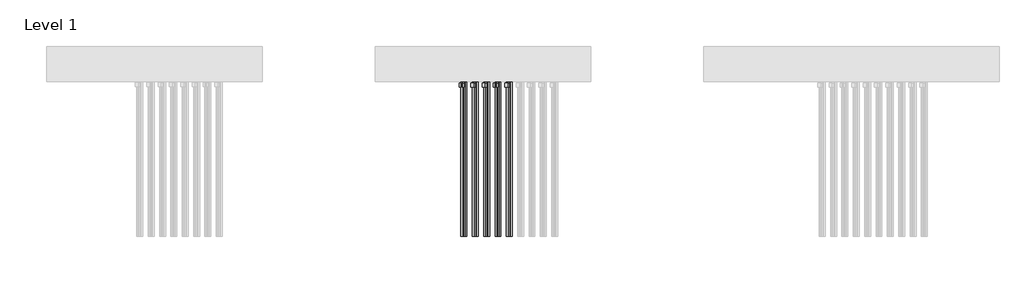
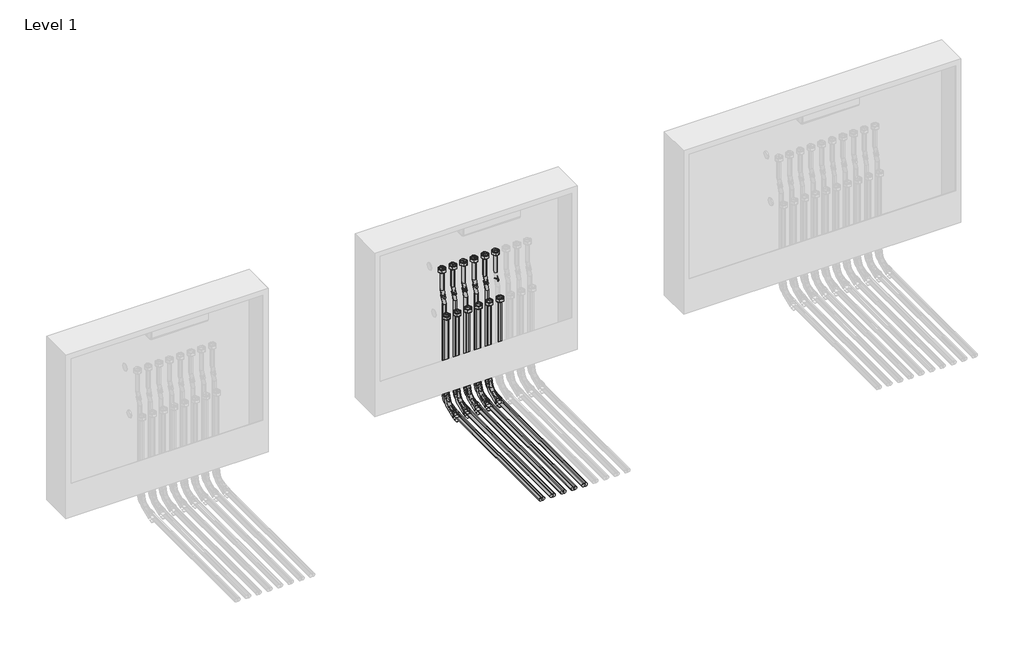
# One storey, part 8 of 15: 42 pipe fittings, 33 pipe segments.
"""IFC4 building model written with IfcOpenShell, lengths in millimetres."""

from ifc_helpers import new_model, si_unit, point, frame, frame_2d, origin, place, context, project, spatial, circle_curve, trimmed, segment, composite_curve, outline, extrude, transform, mapped, element, save
from components import pipe_fitting_b05a7e06, pipe_fitting_27357a6d, pipe_fitting_daada113, pipe_fitting_3e503640

model = new_model("IFC4")

# Units and contexts
model_context = context("Model", 3, world=origin())
ifc_project = project(units=[si_unit("LENGTHUNIT", "METRE", prefix="MILLI")], contexts=[model_context])

# Site, building, storey
site = spatial("IfcSite", under=ifc_project)
building = spatial("IfcBuilding", under=site)
storey = spatial("IfcBuildingStorey", under=building, Name="Level 1", Elevation=0.0)

# Pipe fittings
placement = place(None, origin())
pipe_fitting_shape = pipe_fitting_b05a7e06(model_context)
element("IfcPipeFitting", 1, ObjectType="USYSTEMS_УгловойФиксатор_Multi : Угловой фиксатор", at=placement, inside=storey, context=model_context, shape_type="MappedRepresentation", body=[
    mapped(pipe_fitting_shape, transform((11527.966047, 3819.5915681, -114.3211479), x_axis=(0.0, 0.0, -1.0), y_axis=(0.0, -1.0, 0.0), z_axis=(-1.0, 0.0, 0.0))),
])
element("IfcPipeFitting", 2, ObjectType="USYSTEMS_УгловойФиксатор_Multi : Угловой фиксатор", at=placement, inside=storey, context=model_context, shape_type="MappedRepresentation", body=[
    mapped(pipe_fitting_shape, transform((11577.966047, 3819.5915681, -114.3211479), x_axis=(0.0, 0.0, -1.0), y_axis=(0.0, -1.0, 0.0), z_axis=(-1.0, 0.0, 0.0))),
])
element("IfcPipeFitting", 3, ObjectType="USYSTEMS_УгловойФиксатор_Multi : Угловой фиксатор", at=placement, inside=storey, context=model_context, shape_type="MappedRepresentation", body=[
    mapped(pipe_fitting_shape, transform((11538.0518035, 3855.5915681, -114.3211479), x_axis=(0.0, 0.0, -1.0), y_axis=(0.0, -1.0, 0.0), z_axis=(-1.0, 0.0, 0.0))),
])
element("IfcPipeFitting", 4, ObjectType="USYSTEMS_УгловойФиксатор_Multi : Угловой фиксатор", at=placement, inside=storey, context=model_context, shape_type="MappedRepresentation", body=[
    mapped(pipe_fitting_shape, transform((11588.0518035, 3855.5915681, -114.3211479), x_axis=(0.0, 0.0, -1.0), y_axis=(0.0, -1.0, 0.0), z_axis=(-1.0, 0.0, 0.0))),
])
element("IfcPipeFitting", 5, ObjectType="USYSTEMS_УгловойФиксатор_Multi : Угловой фиксатор", at=placement, inside=storey, context=model_context, shape_type="MappedRepresentation", body=[
    mapped(pipe_fitting_shape, transform((11627.966047, 3819.5915681, -114.3211479), x_axis=(0.0, 0.0, -1.0), y_axis=(0.0, -1.0, 0.0), z_axis=(-1.0, 0.0, 0.0))),
])
element("IfcPipeFitting", 6, ObjectType="USYSTEMS_УгловойФиксатор_Multi : Угловой фиксатор", at=placement, inside=storey, context=model_context, shape_type="MappedRepresentation", body=[
    mapped(pipe_fitting_shape, transform((11638.0518035, 3855.5915681, -114.3211479), x_axis=(0.0, 0.0, -1.0), y_axis=(0.0, -1.0, 0.0), z_axis=(-1.0, 0.0, 0.0))),
])
element("IfcPipeFitting", 7, ObjectType="USYSTEMS_УгловойФиксатор_Multi : Угловой фиксатор", at=placement, inside=storey, context=model_context, shape_type="MappedRepresentation", body=[
    mapped(pipe_fitting_shape, transform((11677.966047, 3819.5915681, -114.3211479), x_axis=(0.0, 0.0, -1.0), y_axis=(0.0, -1.0, 0.0), z_axis=(-1.0, 0.0, 0.0))),
])
element("IfcPipeFitting", 8, ObjectType="USYSTEMS_УгловойФиксатор_Multi : Угловой фиксатор", at=placement, inside=storey, context=model_context, shape_type="MappedRepresentation", body=[
    mapped(pipe_fitting_shape, transform((11688.0518035, 3855.5915681, -114.3211479), x_axis=(0.0, 0.0, -1.0), y_axis=(0.0, -1.0, 0.0), z_axis=(-1.0, 0.0, 0.0))),
])
element("IfcPipeFitting", 9, ObjectType="USYSTEMS_УгловойФиксатор_Multi : Угловой фиксатор", at=placement, inside=storey, context=model_context, shape_type="MappedRepresentation", body=[
    mapped(pipe_fitting_shape, transform((11727.966047, 3819.5918902, -114.3211479), x_axis=(0.0, 0.0, -1.0), y_axis=(0.0, -1.0, 0.0), z_axis=(-1.0, 0.0, 0.0))),
])
element("IfcPipeFitting", 10, ObjectType="USYSTEMS_УгловойФиксатор_Multi : Угловой фиксатор", at=placement, inside=storey, context=model_context, shape_type="MappedRepresentation", body=[
    mapped(pipe_fitting_shape, transform((11738.0518035, 3855.5915681, -114.3211479), x_axis=(0.0, 0.0, -1.0), y_axis=(0.0, -1.0, 0.0), z_axis=(-1.0, 0.0, 0.0))),
])
pipe_fitting_2_shape = pipe_fitting_27357a6d(model_context)
element("IfcPipeFitting", 11, ObjectType="USYSTEMS_Штуцер с внутренней резьбой_FlexX_PEX : 16x2,0 x 3/4\" ВР Евроконус", at=placement, inside=storey, context=model_context, shape_type="MappedRepresentation", body=[
    mapped(pipe_fitting_2_shape, transform((11577.966047, 3855.5920282, 538.3084133), x_axis=(0.0, 0.0, 1.0), y_axis=(0.0, 1.0, 0.0), z_axis=(-1.0, 0.0, 0.0))),
])
element("IfcPipeFitting", 12, ObjectType="USYSTEMS_Штуцер с внутренней резьбой_FlexX_PEX : 16x2,0 x 3/4\" ВР Евроконус", at=placement, inside=storey, context=model_context, shape_type="MappedRepresentation", body=[
    mapped(pipe_fitting_2_shape, transform((11577.966047, 3819.5920282, 328.3084133), x_axis=(0.0, 0.0, 1.0), y_axis=(0.0, 1.0, 0.0), z_axis=(-1.0, 0.0, 0.0))),
])
element("IfcPipeFitting", 13, ObjectType="USYSTEMS_Штуцер с внутренней резьбой_FlexX_PEX : 16x2,0 x 3/4\" ВР Евроконус", at=placement, inside=storey, context=model_context, shape_type="MappedRepresentation", body=[
    mapped(pipe_fitting_2_shape, transform((11527.966047, 3819.5920282, 328.3084133), x_axis=(0.0, 0.0, 1.0), y_axis=(0.0, 1.0, 0.0), z_axis=(-1.0, 0.0, 0.0))),
])
element("IfcPipeFitting", 14, ObjectType="USYSTEMS_Штуцер с внутренней резьбой_FlexX_PEX : 16x2,0 x 3/4\" ВР Евроконус", at=placement, inside=storey, context=model_context, shape_type="MappedRepresentation", body=[
    mapped(pipe_fitting_2_shape, transform((11527.966047, 3855.5920282, 538.3084133), x_axis=(0.0, 0.0, 1.0), y_axis=(0.0, 1.0, 0.0), z_axis=(-1.0, 0.0, 0.0))),
])
element("IfcPipeFitting", 15, ObjectType="USYSTEMS_Штуцер с внутренней резьбой_FlexX_PEX : 16x2,0 x 3/4\" ВР Евроконус", at=placement, inside=storey, context=model_context, shape_type="MappedRepresentation", body=[
    mapped(pipe_fitting_2_shape, transform((11627.966047, 3819.5920282, 328.3084133), x_axis=(0.0, 0.0, 1.0), y_axis=(0.0, 1.0, 0.0), z_axis=(-1.0, 0.0, 0.0))),
])
element("IfcPipeFitting", 16, ObjectType="USYSTEMS_Штуцер с внутренней резьбой_FlexX_PEX : 16x2,0 x 3/4\" ВР Евроконус", at=placement, inside=storey, context=model_context, shape_type="MappedRepresentation", body=[
    mapped(pipe_fitting_2_shape, transform((11627.966047, 3855.5920282, 538.3084133), x_axis=(0.0, 0.0, 1.0), y_axis=(0.0, 1.0, 0.0), z_axis=(-1.0, 0.0, 0.0))),
])
element("IfcPipeFitting", 17, ObjectType="USYSTEMS_Штуцер с внутренней резьбой_FlexX_PEX : 16x2,0 x 3/4\" ВР Евроконус", at=placement, inside=storey, context=model_context, shape_type="MappedRepresentation", body=[
    mapped(pipe_fitting_2_shape, transform((11677.966047, 3819.5920282, 328.3084133), x_axis=(0.0, 0.0, 1.0), y_axis=(0.0, 1.0, 0.0), z_axis=(-1.0, 0.0, 0.0))),
])
element("IfcPipeFitting", 18, ObjectType="USYSTEMS_Штуцер с внутренней резьбой_FlexX_PEX : 16x2,0 x 3/4\" ВР Евроконус", at=placement, inside=storey, context=model_context, shape_type="MappedRepresentation", body=[
    mapped(pipe_fitting_2_shape, transform((11677.966047, 3855.5920282, 538.3084133), x_axis=(0.0, 0.0, 1.0), y_axis=(0.0, 1.0, 0.0), z_axis=(-1.0, 0.0, 0.0))),
])
element("IfcPipeFitting", 19, ObjectType="USYSTEMS_Штуцер с внутренней резьбой_FlexX_PEX : 16x2,0 x 3/4\" ВР Евроконус", at=placement, inside=storey, context=model_context, shape_type="MappedRepresentation", body=[
    mapped(pipe_fitting_2_shape, transform((11727.966047, 3819.5920282, 328.3084133), x_axis=(0.0, 0.0, 1.0), y_axis=(0.0, 1.0, 0.0), z_axis=(-1.0, 0.0, 0.0))),
])
element("IfcPipeFitting", 20, ObjectType="USYSTEMS_Штуцер с внутренней резьбой_FlexX_PEX : 16x2,0 x 3/4\" ВР Евроконус", at=placement, inside=storey, context=model_context, shape_type="MappedRepresentation", body=[
    mapped(pipe_fitting_2_shape, transform((11727.966047, 3855.5920282, 538.3084133), x_axis=(0.0, 0.0, 1.0), y_axis=(0.0, 1.0, 0.0), z_axis=(-1.0, 0.0, 0.0))),
])
element("IfcPipeFitting", 21, ObjectType="USYSTEMS_Штуцер с внутренней резьбой_FlexX_PEX : 16x2,0 x 3/4\" ВР Евроконус", at=placement, inside=storey, context=model_context, shape_type="MappedRepresentation", body=[
    mapped(pipe_fitting_2_shape, transform((11777.966047, 3819.5920282, 328.3084133), x_axis=(0.0, 0.0, 1.0), y_axis=(0.0, 1.0, 0.0), z_axis=(-1.0, 0.0, 0.0))),
])
element("IfcPipeFitting", 22, ObjectType="USYSTEMS_Штуцер с внутренней резьбой_FlexX_PEX : 16x2,0 x 3/4\" ВР Евроконус", at=placement, inside=storey, context=model_context, shape_type="MappedRepresentation", body=[
    mapped(pipe_fitting_2_shape, transform((11777.966047, 3855.5920282, 538.3084133), x_axis=(0.0, 0.0, 1.0), y_axis=(0.0, 1.0, 0.0), z_axis=(-1.0, 0.0, 0.0))),
])
pipe_fitting_3_shape = pipe_fitting_daada113(model_context)
element("IfcPipeFitting", 23, ObjectType="USYSTEMS_Гнутая труба_Radi Pipe : PN 6 в бухтах", at=placement, inside=storey, context=model_context, shape_type="MappedRepresentation", body=[
    mapped(pipe_fitting_3_shape, transform((11527.966047, 3855.5912535, 417.3513211), x_axis=(0.0, 0.0, -1.0), y_axis=(1.0, 0.0, 0.0), z_axis=(0.0, -1.0, 0.0))),
])
element("IfcPipeFitting", 24, ObjectType="USYSTEMS_Гнутая труба_Radi Pipe : PN 6 в бухтах", at=placement, inside=storey, context=model_context, shape_type="MappedRepresentation", body=[
    mapped(pipe_fitting_3_shape, transform((11538.0518035, 3855.5915681, 391.0770272), x_axis=(0.3583679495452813, 0.0, -0.9335804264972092), y_axis=(-0.9335804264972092, 0.0, -0.3583679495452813), z_axis=(0.0, 1.0, 0.0))),
])
element("IfcPipeFitting", 25, ObjectType="USYSTEMS_Гнутая труба_Radi Pipe : PN 6 в бухтах", at=placement, inside=storey, context=model_context, shape_type="MappedRepresentation", body=[
    mapped(pipe_fitting_3_shape, transform((11577.966047, 3855.5912536, 417.3247189), x_axis=(0.0, 0.0, -1.0), y_axis=(1.0, 0.0, 0.0), z_axis=(0.0, -1.0, 0.0))),
])
element("IfcPipeFitting", 26, ObjectType="USYSTEMS_Гнутая труба_Radi Pipe : PN 6 в бухтах", at=placement, inside=storey, context=model_context, shape_type="MappedRepresentation", body=[
    mapped(pipe_fitting_3_shape, transform((11588.0518035, 3855.5915681, 391.050425), x_axis=(0.3583679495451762, 0.0, -0.9335804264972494), y_axis=(-0.9335804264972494, 0.0, -0.3583679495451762), z_axis=(0.0, 1.0, 0.0))),
])
element("IfcPipeFitting", 27, ObjectType="USYSTEMS_Гнутая труба_Radi Pipe : PN 6 в бухтах", at=placement, inside=storey, context=model_context, shape_type="MappedRepresentation", body=[
    mapped(pipe_fitting_3_shape, transform((11627.966047, 3855.5912535, 417.3513211), x_axis=(0.0, 0.0, -1.0), y_axis=(1.0, 0.0, 0.0), z_axis=(0.0, -1.0, 0.0))),
])
element("IfcPipeFitting", 28, ObjectType="USYSTEMS_Гнутая труба_Radi Pipe : PN 6 в бухтах", at=placement, inside=storey, context=model_context, shape_type="MappedRepresentation", body=[
    mapped(pipe_fitting_3_shape, transform((11638.0518035, 3855.5915681, 391.0770272), x_axis=(0.3583679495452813, 0.0, -0.9335804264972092), y_axis=(-0.9335804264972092, 0.0, -0.3583679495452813), z_axis=(0.0, 1.0, 0.0))),
])
element("IfcPipeFitting", 29, ObjectType="USYSTEMS_Гнутая труба_Radi Pipe : PN 6 в бухтах", at=placement, inside=storey, context=model_context, shape_type="MappedRepresentation", body=[
    mapped(pipe_fitting_3_shape, transform((11677.966047, 3855.5912535, 417.3513211), x_axis=(0.0, 0.0, -1.0), y_axis=(1.0, 0.0, 0.0), z_axis=(0.0, -1.0, 0.0))),
])
element("IfcPipeFitting", 30, ObjectType="USYSTEMS_Гнутая труба_Radi Pipe : PN 6 в бухтах", at=placement, inside=storey, context=model_context, shape_type="MappedRepresentation", body=[
    mapped(pipe_fitting_3_shape, transform((11688.0518035, 3855.5915681, 391.0770272), x_axis=(0.3583679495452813, 0.0, -0.9335804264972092), y_axis=(-0.9335804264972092, 0.0, -0.3583679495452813), z_axis=(0.0, 1.0, 0.0))),
])
element("IfcPipeFitting", 31, ObjectType="USYSTEMS_Гнутая труба_Radi Pipe : PN 6 в бухтах", at=placement, inside=storey, context=model_context, shape_type="MappedRepresentation", body=[
    mapped(pipe_fitting_3_shape, transform((11727.966047, 3855.5912535, 417.3513211), x_axis=(0.0, 0.0, -1.0), y_axis=(1.0, 0.0, 0.0), z_axis=(0.0, -1.0, 0.0))),
])
element("IfcPipeFitting", 32, ObjectType="USYSTEMS_Гнутая труба_Radi Pipe : PN 6 в бухтах", at=placement, inside=storey, context=model_context, shape_type="MappedRepresentation", body=[
    mapped(pipe_fitting_3_shape, transform((11738.0518035, 3855.5915681, 391.0770272), x_axis=(0.3583679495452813, 0.0, -0.9335804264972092), y_axis=(-0.9335804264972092, 0.0, -0.3583679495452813), z_axis=(0.0, 1.0, 0.0))),
])
pipe_fitting_4_shape = pipe_fitting_3e503640(model_context)
element("IfcPipeFitting", 33, ObjectType="USYSTEMS_Гнутая труба_Radi Pipe : PN 6 в бухтах_С фиксатором", at=placement, inside=storey, context=model_context, shape_type="MappedRepresentation", body=[
    mapped(pipe_fitting_4_shape, transform((11527.966047, 3819.5915681, -114.3211479), x_axis=(0.0, 0.0, -1.0), y_axis=(0.0, -1.0, 0.0), z_axis=(-1.0, 0.0, 0.0))),
])
element("IfcPipeFitting", 34, ObjectType="USYSTEMS_Гнутая труба_Radi Pipe : PN 6 в бухтах_С фиксатором", at=placement, inside=storey, context=model_context, shape_type="MappedRepresentation", body=[
    mapped(pipe_fitting_4_shape, transform((11577.966047, 3819.5915681, -114.3211479), x_axis=(0.0, 0.0, -1.0), y_axis=(0.0, -1.0, 0.0), z_axis=(-1.0, 0.0, 0.0))),
])
element("IfcPipeFitting", 35, ObjectType="USYSTEMS_Гнутая труба_Radi Pipe : PN 6 в бухтах_С фиксатором", at=placement, inside=storey, context=model_context, shape_type="MappedRepresentation", body=[
    mapped(pipe_fitting_4_shape, transform((11538.0518035, 3855.5915681, -114.3211479), x_axis=(0.0, 0.0, -1.0), y_axis=(0.0, -1.0, 0.0), z_axis=(-1.0, 0.0, 0.0))),
])
element("IfcPipeFitting", 36, ObjectType="USYSTEMS_Гнутая труба_Radi Pipe : PN 6 в бухтах_С фиксатором", at=placement, inside=storey, context=model_context, shape_type="MappedRepresentation", body=[
    mapped(pipe_fitting_4_shape, transform((11588.0518035, 3855.5915681, -114.3211479), x_axis=(0.0, 0.0, -1.0), y_axis=(0.0, -1.0, 0.0), z_axis=(-1.0, 0.0, 0.0))),
])
element("IfcPipeFitting", 37, ObjectType="USYSTEMS_Гнутая труба_Radi Pipe : PN 6 в бухтах_С фиксатором", at=placement, inside=storey, context=model_context, shape_type="MappedRepresentation", body=[
    mapped(pipe_fitting_4_shape, transform((11627.966047, 3819.5915681, -114.3211479), x_axis=(0.0, 0.0, -1.0), y_axis=(0.0, -1.0, 0.0), z_axis=(-1.0, 0.0, 0.0))),
])
element("IfcPipeFitting", 38, ObjectType="USYSTEMS_Гнутая труба_Radi Pipe : PN 6 в бухтах_С фиксатором", at=placement, inside=storey, context=model_context, shape_type="MappedRepresentation", body=[
    mapped(pipe_fitting_4_shape, transform((11638.0518035, 3855.5915681, -114.3211479), x_axis=(0.0, 0.0, -1.0), y_axis=(0.0, -1.0, 0.0), z_axis=(-1.0, 0.0, 0.0))),
])
element("IfcPipeFitting", 39, ObjectType="USYSTEMS_Гнутая труба_Radi Pipe : PN 6 в бухтах_С фиксатором", at=placement, inside=storey, context=model_context, shape_type="MappedRepresentation", body=[
    mapped(pipe_fitting_4_shape, transform((11677.966047, 3819.5915681, -114.3211479), x_axis=(0.0, 0.0, -1.0), y_axis=(0.0, -1.0, 0.0), z_axis=(-1.0, 0.0, 0.0))),
])
element("IfcPipeFitting", 40, ObjectType="USYSTEMS_Гнутая труба_Radi Pipe : PN 6 в бухтах_С фиксатором", at=placement, inside=storey, context=model_context, shape_type="MappedRepresentation", body=[
    mapped(pipe_fitting_4_shape, transform((11688.0518035, 3855.5915681, -114.3211479), x_axis=(0.0, 0.0, -1.0), y_axis=(0.0, -1.0, 0.0), z_axis=(-1.0, 0.0, 0.0))),
])
element("IfcPipeFitting", 41, ObjectType="USYSTEMS_Гнутая труба_Radi Pipe : PN 6 в бухтах_С фиксатором", at=placement, inside=storey, context=model_context, shape_type="MappedRepresentation", body=[
    mapped(pipe_fitting_4_shape, transform((11727.966047, 3819.5918902, -114.3211479), x_axis=(0.0, 0.0, -1.0), y_axis=(0.0, -1.0, 0.0), z_axis=(-1.0, 0.0, 0.0))),
])
element("IfcPipeFitting", 42, ObjectType="USYSTEMS_Гнутая труба_Radi Pipe : PN 6 в бухтах_С фиксатором", at=placement, inside=storey, context=model_context, shape_type="MappedRepresentation", body=[
    mapped(pipe_fitting_4_shape, transform((11738.0518035, 3855.5915681, -114.3211479), x_axis=(0.0, 0.0, -1.0), y_axis=(0.0, -1.0, 0.0), z_axis=(-1.0, 0.0, 0.0))),
])

# Pipe segments
element("IfcPipeSegment", 43, ObjectType="USYSTEMS труба Radi Pipe белая PN6", at=placement, inside=storey, context=model_context, shape_type="SweptSolid", body=[
    extrude(outline(composite_curve([segment(trimmed(circle_curve(frame_2d((0.0, -8.0)), 8.0), [point((-8.0, -8.0))], [point((0.0, 0.0))], False, "CARTESIAN"), True, "CONTINUOUS"), segment(trimmed(circle_curve(frame_2d((0.0, -8.0)), 8.0), [point((0.0, 0.0))], [point((8.0, -8.0))], False, "CARTESIAN"), True, "CONTINUOUS"), segment(trimmed(circle_curve(frame_2d((0.0, -8.0)), 8.0), [point((8.0, -8.0))], [point((0.0, -16.0))], False, "CARTESIAN"), True, "CONTINUOUS"), segment(trimmed(circle_curve(frame_2d((0.0, -8.0)), 8.0), [point((0.0, -16.0))], [point((-8.0, -8.0))], False, "CARTESIAN"), True, "CONTINUOUS")], self_intersect=False)), frame((11527.966047, 3811.5915681, -43.321138), z_axis=(0.0, 1.2415007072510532e-06, 0.9999999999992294), x_axis=(-1.0, 0.0, 0.0)), (0.0, 0.0, 1.0), 370.6295612),
])
element("IfcPipeSegment", 44, ObjectType="USYSTEMS труба Radi Pipe белая PN6", at=placement, inside=storey, context=model_context, shape_type="SweptSolid", body=[
    extrude(outline(composite_curve([segment(trimmed(circle_curve(frame_2d((0.0, -8.0)), 8.0), [point((-8.0, -8.0))], [point((0.0, 0.0))], False, "CARTESIAN"), True, "CONTINUOUS"), segment(trimmed(circle_curve(frame_2d((0.0, -8.0)), 8.0), [point((0.0, 0.0))], [point((8.0, -8.0))], False, "CARTESIAN"), True, "CONTINUOUS"), segment(trimmed(circle_curve(frame_2d((0.0, -8.0)), 8.0), [point((8.0, -8.0))], [point((0.0, -16.0))], False, "CARTESIAN"), True, "CONTINUOUS"), segment(trimmed(circle_curve(frame_2d((0.0, -8.0)), 8.0), [point((0.0, -16.0))], [point((-8.0, -8.0))], False, "CARTESIAN"), True, "CONTINUOUS")], self_intersect=False)), frame((11577.966047, 3811.5915681, -43.321138), z_axis=(0.0, 1.2415007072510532e-06, 0.9999999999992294), x_axis=(-1.0, 0.0, 0.0)), (0.0, 0.0, 1.0), 370.6295612),
])
element("IfcPipeSegment", 45, ObjectType="USYSTEMS труба Radi Pipe белая PN6", at=placement, inside=storey, context=model_context, shape_type="SweptSolid", body=[
    extrude(outline(composite_curve([segment(trimmed(circle_curve(frame_2d((0.0, -8.0)), 8.0), [point((-8.0, -8.0))], [point((0.0, 0.0))], False, "CARTESIAN"), True, "CONTINUOUS"), segment(trimmed(circle_curve(frame_2d((0.0, -8.0)), 8.0), [point((0.0, 0.0))], [point((8.0, -8.0))], False, "CARTESIAN"), True, "CONTINUOUS"), segment(trimmed(circle_curve(frame_2d((0.0, -8.0)), 8.0), [point((8.0, -8.0))], [point((0.0, -16.0))], False, "CARTESIAN"), True, "CONTINUOUS"), segment(trimmed(circle_curve(frame_2d((0.0, -8.0)), 8.0), [point((0.0, -16.0))], [point((-8.0, -8.0))], False, "CARTESIAN"), True, "CONTINUOUS")], self_intersect=False)), frame((11577.966047, 3847.5912536, 441.048181), z_axis=(0.0, 8.046607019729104e-06, 0.9999999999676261), x_axis=(-1.0, 0.0, 0.0)), (0.0, 0.0, 1.0), 96.2602967),
])
element("IfcPipeSegment", 46, ObjectType="USYSTEMS труба Radi Pipe белая PN6", at=placement, inside=storey, context=model_context, shape_type="SweptSolid", body=[
    extrude(outline(composite_curve([segment(trimmed(circle_curve(frame_2d((0.0, -8.0)), 8.0), [point((-8.0, -8.0))], [point((0.0, 0.0))], False, "CARTESIAN"), True, "CONTINUOUS"), segment(trimmed(circle_curve(frame_2d((0.0, -8.0)), 8.0), [point((0.0, 0.0))], [point((8.0, -8.0))], False, "CARTESIAN"), True, "CONTINUOUS"), segment(trimmed(circle_curve(frame_2d((0.0, -8.0)), 8.0), [point((8.0, -8.0))], [point((0.0, -16.0))], False, "CARTESIAN"), True, "CONTINUOUS"), segment(trimmed(circle_curve(frame_2d((0.0, -8.0)), 8.0), [point((0.0, -16.0))], [point((-8.0, -8.0))], False, "CARTESIAN"), True, "CONTINUOUS")], self_intersect=False)), frame((11527.966047, 3847.5912535, 441.0747833), z_axis=(0.0, 8.050352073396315e-06, 0.9999999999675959), x_axis=(-1.0, 0.0, 0.0)), (0.0, 0.0, 1.0), 96.2336944),
])
element("IfcPipeSegment", 47, ObjectType="USYSTEMS труба Radi Pipe белая PN6", at=placement, inside=storey, context=model_context, shape_type="SweptSolid", body=[
    extrude(outline(composite_curve([segment(trimmed(circle_curve(frame_2d((0.0, 8.0)), 8.0), [point((0.0003897, 16.0))], [point((8.0, 7.9996104))], False, "CARTESIAN"), True, "CONTINUOUS"), segment(trimmed(circle_curve(frame_2d((0.0, 8.0)), 8.0), [point((8.0, 7.9996104))], [point((-0.0003897, 0.0))], False, "CARTESIAN"), True, "CONTINUOUS"), segment(trimmed(circle_curve(frame_2d((0.0, 8.0)), 8.0), [point((-0.0003897, 0.0))], [point((-8.0, 8.0003896))], False, "CARTESIAN"), True, "CONTINUOUS"), segment(trimmed(circle_curve(frame_2d((0.0, 8.0)), 8.0), [point((-8.0, 8.0003896))], [point((0.0003897, 16.0))], False, "CARTESIAN"), True, "CONTINUOUS")], self_intersect=False)), frame((11536.4677524, 3847.5912535, 395.203761), z_axis=(-0.3583679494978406, 1.6296675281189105e-05, 0.9335804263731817), x_axis=(0.9335804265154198, 6.2557075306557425e-06, 0.35836794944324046)), (0.0, 0.0, 1.0), 19.3032171),
])
element("IfcPipeSegment", 48, ObjectType="USYSTEMS труба Radi Pipe белая PN6", at=placement, inside=storey, context=model_context, shape_type="SweptSolid", body=[
    extrude(outline(composite_curve([segment(trimmed(circle_curve(frame_2d((11538.0518035, 3855.5915681)), 8.0), [point((11546.0518035, 3855.5915681))], [point((11538.0518035, 3847.5915681))], False, "CARTESIAN"), True, "CONTINUOUS"), segment(trimmed(circle_curve(frame_2d((11538.0518035, 3855.5915681)), 8.0), [point((11538.0518035, 3847.5915681))], [point((11530.0518035, 3855.5915681))], False, "CARTESIAN"), True, "CONTINUOUS"), segment(trimmed(circle_curve(frame_2d((11538.0518035, 3855.5915681)), 8.0), [point((11530.0518035, 3855.5915681))], [point((11538.0518035, 3863.5915681))], False, "CARTESIAN"), True, "CONTINUOUS"), segment(trimmed(circle_curve(frame_2d((11538.0518035, 3855.5915681)), 8.0), [point((11538.0518035, 3863.5915681))], [point((11546.0518035, 3855.5915681))], False, "CARTESIAN"), True, "CONTINUOUS")], self_intersect=False)), frame((0.0, 0.0, -43.3211479), z_axis=(0.0, 0.0, 1.0), x_axis=(1.0, 0.0, 0.0)), (0.0, 0.0, 1.0), 410.6747774),
])
element("IfcPipeSegment", 49, ObjectType="USYSTEMS труба Radi Pipe белая PN6", at=placement, inside=storey, context=model_context, shape_type="SweptSolid", body=[
    extrude(outline(composite_curve([segment(trimmed(circle_curve(frame_2d((0.0, 8.0)), 8.0), [point((0.0003895, 16.0))], [point((8.0, 7.9996106))], False, "CARTESIAN"), True, "CONTINUOUS"), segment(trimmed(circle_curve(frame_2d((0.0, 8.0)), 8.0), [point((8.0, 7.9996106))], [point((-0.0003895, 0.0))], False, "CARTESIAN"), True, "CONTINUOUS"), segment(trimmed(circle_curve(frame_2d((0.0, 8.0)), 8.0), [point((-0.0003895, 0.0))], [point((-8.0, 8.0003895))], False, "CARTESIAN"), True, "CONTINUOUS"), segment(trimmed(circle_curve(frame_2d((0.0, 8.0)), 8.0), [point((-8.0, 8.0003895))], [point((0.0003895, 16.0))], False, "CARTESIAN"), True, "CONTINUOUS")], self_intersect=False)), frame((11586.4677524, 3847.5912536, 395.1771587), z_axis=(-0.358367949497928, 1.6289094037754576e-05, 0.9335804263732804), x_axis=(0.9335804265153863, 6.25279736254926e-06, 0.3583679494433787)), (0.0, 0.0, 1.0), 19.3032171),
])
element("IfcPipeSegment", 50, ObjectType="USYSTEMS труба Radi Pipe белая PN6", at=placement, inside=storey, context=model_context, shape_type="SweptSolid", body=[
    extrude(outline(composite_curve([segment(trimmed(circle_curve(frame_2d((11588.0518035, 3855.5915681)), 8.0), [point((11596.0518035, 3855.5915681))], [point((11588.0518035, 3847.5915681))], False, "CARTESIAN"), True, "CONTINUOUS"), segment(trimmed(circle_curve(frame_2d((11588.0518035, 3855.5915681)), 8.0), [point((11588.0518035, 3847.5915681))], [point((11580.0518035, 3855.5915681))], False, "CARTESIAN"), True, "CONTINUOUS"), segment(trimmed(circle_curve(frame_2d((11588.0518035, 3855.5915681)), 8.0), [point((11580.0518035, 3855.5915681))], [point((11588.0518035, 3863.5915681))], False, "CARTESIAN"), True, "CONTINUOUS"), segment(trimmed(circle_curve(frame_2d((11588.0518035, 3855.5915681)), 8.0), [point((11588.0518035, 3863.5915681))], [point((11596.0518035, 3855.5915681))], False, "CARTESIAN"), True, "CONTINUOUS")], self_intersect=False)), frame((0.0, 0.0, -43.3211479), z_axis=(0.0, 0.0, 1.0), x_axis=(1.0, 0.0, 0.0)), (0.0, 0.0, 1.0), 410.6481751),
])
element("IfcPipeSegment", 51, ObjectType="USYSTEMS труба Radi Pipe белая PN6", at=placement, inside=storey, context=model_context, shape_type="SweptSolid", body=[
    extrude(outline(composite_curve([segment(trimmed(circle_curve(frame_2d((-114.3211479, 11527.966047)), 8.0), [point((-114.3211479, 11519.966047))], [point((-122.3211479, 11527.966047))], False, "CARTESIAN"), True, "CONTINUOUS"), segment(trimmed(circle_curve(frame_2d((-114.3211479, 11527.966047)), 8.0), [point((-122.3211479, 11527.966047))], [point((-114.3211479, 11535.966047))], False, "CARTESIAN"), True, "CONTINUOUS"), segment(trimmed(circle_curve(frame_2d((-114.3211479, 11527.966047)), 8.0), [point((-114.3211479, 11535.966047))], [point((-106.3211479, 11527.966047))], False, "CARTESIAN"), True, "CONTINUOUS"), segment(trimmed(circle_curve(frame_2d((-114.3211479, 11527.966047)), 8.0), [point((-106.3211479, 11527.966047))], [point((-114.3211479, 11519.966047))], False, "CARTESIAN"), True, "CONTINUOUS")], self_intersect=False)), frame((0.0, 3054.7207207, 0.0), z_axis=(0.0, 1.0, 0.0), x_axis=(0.0, 0.0, 1.0)), (0.0, 0.0, 1.0), 693.8708473),
])
element("IfcPipeSegment", 52, ObjectType="USYSTEMS труба Radi Pipe белая PN6", at=placement, inside=storey, context=model_context, shape_type="SweptSolid", body=[
    extrude(outline(composite_curve([segment(trimmed(circle_curve(frame_2d((-114.3211479, 11577.966047)), 8.0), [point((-114.3211479, 11569.966047))], [point((-122.3211479, 11577.966047))], False, "CARTESIAN"), True, "CONTINUOUS"), segment(trimmed(circle_curve(frame_2d((-114.3211479, 11577.966047)), 8.0), [point((-122.3211479, 11577.966047))], [point((-114.3211479, 11585.966047))], False, "CARTESIAN"), True, "CONTINUOUS"), segment(trimmed(circle_curve(frame_2d((-114.3211479, 11577.966047)), 8.0), [point((-114.3211479, 11585.966047))], [point((-106.3211479, 11577.966047))], False, "CARTESIAN"), True, "CONTINUOUS"), segment(trimmed(circle_curve(frame_2d((-114.3211479, 11577.966047)), 8.0), [point((-106.3211479, 11577.966047))], [point((-114.3211479, 11569.966047))], False, "CARTESIAN"), True, "CONTINUOUS")], self_intersect=False)), frame((0.0, 3054.7207207, 0.0), z_axis=(0.0, 1.0, 0.0), x_axis=(0.0, 0.0, 1.0)), (0.0, 0.0, 1.0), 693.8708473),
])
element("IfcPipeSegment", 53, ObjectType="USYSTEMS труба Radi Pipe белая PN6", at=placement, inside=storey, context=model_context, shape_type="SweptSolid", body=[
    extrude(outline(composite_curve([segment(trimmed(circle_curve(frame_2d((-114.3211479, 11538.0518035)), 8.0), [point((-114.3211479, 11530.0518035))], [point((-122.3211479, 11538.0518035))], False, "CARTESIAN"), True, "CONTINUOUS"), segment(trimmed(circle_curve(frame_2d((-114.3211479, 11538.0518035)), 8.0), [point((-122.3211479, 11538.0518035))], [point((-114.3211479, 11546.0518035))], False, "CARTESIAN"), True, "CONTINUOUS"), segment(trimmed(circle_curve(frame_2d((-114.3211479, 11538.0518035)), 8.0), [point((-114.3211479, 11546.0518035))], [point((-106.3211479, 11538.0518035))], False, "CARTESIAN"), True, "CONTINUOUS"), segment(trimmed(circle_curve(frame_2d((-114.3211479, 11538.0518035)), 8.0), [point((-106.3211479, 11538.0518035))], [point((-114.3211479, 11530.0518035))], False, "CARTESIAN"), True, "CONTINUOUS")], self_intersect=False)), frame((0.0, 3054.7207207, 0.0), z_axis=(0.0, 1.0, 0.0), x_axis=(0.0, 0.0, 1.0)), (0.0, 0.0, 1.0), 729.8708473),
])
element("IfcPipeSegment", 54, ObjectType="USYSTEMS труба Radi Pipe белая PN6", at=placement, inside=storey, context=model_context, shape_type="SweptSolid", body=[
    extrude(outline(composite_curve([segment(trimmed(circle_curve(frame_2d((-114.3211479, 11588.0518035)), 8.0), [point((-114.3211479, 11580.0518035))], [point((-122.3211479, 11588.0518035))], False, "CARTESIAN"), True, "CONTINUOUS"), segment(trimmed(circle_curve(frame_2d((-114.3211479, 11588.0518035)), 8.0), [point((-122.3211479, 11588.0518035))], [point((-114.3211479, 11596.0518035))], False, "CARTESIAN"), True, "CONTINUOUS"), segment(trimmed(circle_curve(frame_2d((-114.3211479, 11588.0518035)), 8.0), [point((-114.3211479, 11596.0518035))], [point((-106.3211479, 11588.0518035))], False, "CARTESIAN"), True, "CONTINUOUS"), segment(trimmed(circle_curve(frame_2d((-114.3211479, 11588.0518035)), 8.0), [point((-106.3211479, 11588.0518035))], [point((-114.3211479, 11580.0518035))], False, "CARTESIAN"), True, "CONTINUOUS")], self_intersect=False)), frame((0.0, 3054.7207207, 0.0), z_axis=(0.0, 1.0, 0.0), x_axis=(0.0, 0.0, 1.0)), (0.0, 0.0, 1.0), 729.8708473),
])
element("IfcPipeSegment", 55, ObjectType="USYSTEMS труба Radi Pipe белая PN6", at=placement, inside=storey, context=model_context, shape_type="SweptSolid", body=[
    extrude(outline(composite_curve([segment(trimmed(circle_curve(frame_2d((0.0, -8.0)), 8.0), [point((-8.0, -8.0))], [point((0.0, 0.0))], False, "CARTESIAN"), True, "CONTINUOUS"), segment(trimmed(circle_curve(frame_2d((0.0, -8.0)), 8.0), [point((0.0, 0.0))], [point((8.0, -8.0))], False, "CARTESIAN"), True, "CONTINUOUS"), segment(trimmed(circle_curve(frame_2d((0.0, -8.0)), 8.0), [point((8.0, -8.0))], [point((0.0, -16.0))], False, "CARTESIAN"), True, "CONTINUOUS"), segment(trimmed(circle_curve(frame_2d((0.0, -8.0)), 8.0), [point((0.0, -16.0))], [point((-8.0, -8.0))], False, "CARTESIAN"), True, "CONTINUOUS")], self_intersect=False)), frame((11627.966047, 3811.5915681, -43.321138), z_axis=(0.0, 1.2415007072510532e-06, 0.9999999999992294), x_axis=(-1.0, 0.0, 0.0)), (0.0, 0.0, 1.0), 370.6295612),
])
element("IfcPipeSegment", 56, ObjectType="USYSTEMS труба Radi Pipe белая PN6", at=placement, inside=storey, context=model_context, shape_type="SweptSolid", body=[
    extrude(outline(composite_curve([segment(trimmed(circle_curve(frame_2d((0.0, -8.0)), 8.0), [point((-8.0, -8.0))], [point((0.0, 0.0))], False, "CARTESIAN"), True, "CONTINUOUS"), segment(trimmed(circle_curve(frame_2d((0.0, -8.0)), 8.0), [point((0.0, 0.0))], [point((8.0, -8.0))], False, "CARTESIAN"), True, "CONTINUOUS"), segment(trimmed(circle_curve(frame_2d((0.0, -8.0)), 8.0), [point((8.0, -8.0))], [point((0.0, -16.0))], False, "CARTESIAN"), True, "CONTINUOUS"), segment(trimmed(circle_curve(frame_2d((0.0, -8.0)), 8.0), [point((0.0, -16.0))], [point((-8.0, -8.0))], False, "CARTESIAN"), True, "CONTINUOUS")], self_intersect=False)), frame((11627.966047, 3847.5912535, 441.0747833), z_axis=(0.0, 8.050352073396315e-06, 0.9999999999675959), x_axis=(-1.0, 0.0, 0.0)), (0.0, 0.0, 1.0), 96.2336944),
])
element("IfcPipeSegment", 57, ObjectType="USYSTEMS труба Radi Pipe белая PN6", at=placement, inside=storey, context=model_context, shape_type="SweptSolid", body=[
    extrude(outline(composite_curve([segment(trimmed(circle_curve(frame_2d((0.0, 8.0)), 8.0), [point((0.0003897, 16.0))], [point((8.0, 7.9996104))], False, "CARTESIAN"), True, "CONTINUOUS"), segment(trimmed(circle_curve(frame_2d((0.0, 8.0)), 8.0), [point((8.0, 7.9996104))], [point((-0.0003897, 0.0))], False, "CARTESIAN"), True, "CONTINUOUS"), segment(trimmed(circle_curve(frame_2d((0.0, 8.0)), 8.0), [point((-0.0003897, 0.0))], [point((-8.0, 8.0003896))], False, "CARTESIAN"), True, "CONTINUOUS"), segment(trimmed(circle_curve(frame_2d((0.0, 8.0)), 8.0), [point((-8.0, 8.0003896))], [point((0.0003897, 16.0))], False, "CARTESIAN"), True, "CONTINUOUS")], self_intersect=False)), frame((11636.4677524, 3847.5912535, 395.203761), z_axis=(-0.35836794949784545, 1.6296675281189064e-05, 0.9335804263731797), x_axis=(0.9335804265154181, 6.2557075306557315e-06, 0.35836794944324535)), (0.0, 0.0, 1.0), 19.3032171),
])
element("IfcPipeSegment", 58, ObjectType="USYSTEMS труба Radi Pipe белая PN6", at=placement, inside=storey, context=model_context, shape_type="SweptSolid", body=[
    extrude(outline(composite_curve([segment(trimmed(circle_curve(frame_2d((11638.0518035, 3855.5915681)), 8.0), [point((11646.0518035, 3855.5915681))], [point((11638.0518035, 3847.5915681))], False, "CARTESIAN"), True, "CONTINUOUS"), segment(trimmed(circle_curve(frame_2d((11638.0518035, 3855.5915681)), 8.0), [point((11638.0518035, 3847.5915681))], [point((11630.0518035, 3855.5915681))], False, "CARTESIAN"), True, "CONTINUOUS"), segment(trimmed(circle_curve(frame_2d((11638.0518035, 3855.5915681)), 8.0), [point((11630.0518035, 3855.5915681))], [point((11638.0518035, 3863.5915681))], False, "CARTESIAN"), True, "CONTINUOUS"), segment(trimmed(circle_curve(frame_2d((11638.0518035, 3855.5915681)), 8.0), [point((11638.0518035, 3863.5915681))], [point((11646.0518035, 3855.5915681))], False, "CARTESIAN"), True, "CONTINUOUS")], self_intersect=False)), frame((0.0, 0.0, -43.3211479), z_axis=(0.0, 0.0, 1.0), x_axis=(1.0, 0.0, 0.0)), (0.0, 0.0, 1.0), 410.6747774),
])
element("IfcPipeSegment", 59, ObjectType="USYSTEMS труба Radi Pipe белая PN6", at=placement, inside=storey, context=model_context, shape_type="SweptSolid", body=[
    extrude(outline(composite_curve([segment(trimmed(circle_curve(frame_2d((-114.3211479, 11627.966047)), 8.0), [point((-114.3211479, 11619.966047))], [point((-122.3211479, 11627.966047))], False, "CARTESIAN"), True, "CONTINUOUS"), segment(trimmed(circle_curve(frame_2d((-114.3211479, 11627.966047)), 8.0), [point((-122.3211479, 11627.966047))], [point((-114.3211479, 11635.966047))], False, "CARTESIAN"), True, "CONTINUOUS"), segment(trimmed(circle_curve(frame_2d((-114.3211479, 11627.966047)), 8.0), [point((-114.3211479, 11635.966047))], [point((-106.3211479, 11627.966047))], False, "CARTESIAN"), True, "CONTINUOUS"), segment(trimmed(circle_curve(frame_2d((-114.3211479, 11627.966047)), 8.0), [point((-106.3211479, 11627.966047))], [point((-114.3211479, 11619.966047))], False, "CARTESIAN"), True, "CONTINUOUS")], self_intersect=False)), frame((0.0, 3054.7207207, 0.0), z_axis=(0.0, 1.0, 0.0), x_axis=(0.0, 0.0, 1.0)), (0.0, 0.0, 1.0), 693.8708473),
])
element("IfcPipeSegment", 60, ObjectType="USYSTEMS труба Radi Pipe белая PN6", at=placement, inside=storey, context=model_context, shape_type="SweptSolid", body=[
    extrude(outline(composite_curve([segment(trimmed(circle_curve(frame_2d((-114.3211479, 11638.0518035)), 8.0), [point((-114.3211479, 11630.0518035))], [point((-122.3211479, 11638.0518035))], False, "CARTESIAN"), True, "CONTINUOUS"), segment(trimmed(circle_curve(frame_2d((-114.3211479, 11638.0518035)), 8.0), [point((-122.3211479, 11638.0518035))], [point((-114.3211479, 11646.0518035))], False, "CARTESIAN"), True, "CONTINUOUS"), segment(trimmed(circle_curve(frame_2d((-114.3211479, 11638.0518035)), 8.0), [point((-114.3211479, 11646.0518035))], [point((-106.3211479, 11638.0518035))], False, "CARTESIAN"), True, "CONTINUOUS"), segment(trimmed(circle_curve(frame_2d((-114.3211479, 11638.0518035)), 8.0), [point((-106.3211479, 11638.0518035))], [point((-114.3211479, 11630.0518035))], False, "CARTESIAN"), True, "CONTINUOUS")], self_intersect=False)), frame((0.0, 3054.7207207, 0.0), z_axis=(0.0, 1.0, 0.0), x_axis=(0.0, 0.0, 1.0)), (0.0, 0.0, 1.0), 729.8708473),
])
element("IfcPipeSegment", 61, ObjectType="USYSTEMS труба Radi Pipe белая PN6", at=placement, inside=storey, context=model_context, shape_type="SweptSolid", body=[
    extrude(outline(composite_curve([segment(trimmed(circle_curve(frame_2d((0.0, -8.0)), 8.0), [point((-8.0, -8.0))], [point((0.0, 0.0))], False, "CARTESIAN"), True, "CONTINUOUS"), segment(trimmed(circle_curve(frame_2d((0.0, -8.0)), 8.0), [point((0.0, 0.0))], [point((8.0, -8.0))], False, "CARTESIAN"), True, "CONTINUOUS"), segment(trimmed(circle_curve(frame_2d((0.0, -8.0)), 8.0), [point((8.0, -8.0))], [point((0.0, -16.0))], False, "CARTESIAN"), True, "CONTINUOUS"), segment(trimmed(circle_curve(frame_2d((0.0, -8.0)), 8.0), [point((0.0, -16.0))], [point((-8.0, -8.0))], False, "CARTESIAN"), True, "CONTINUOUS")], self_intersect=False)), frame((11677.966047, 3811.5915681, -43.321138), z_axis=(0.0, 1.2415007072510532e-06, 0.9999999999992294), x_axis=(-1.0, 0.0, 0.0)), (0.0, 0.0, 1.0), 370.6295612),
])
element("IfcPipeSegment", 62, ObjectType="USYSTEMS труба Radi Pipe белая PN6", at=placement, inside=storey, context=model_context, shape_type="SweptSolid", body=[
    extrude(outline(composite_curve([segment(trimmed(circle_curve(frame_2d((0.0, -8.0)), 8.0), [point((-8.0, -8.0))], [point((0.0, 0.0))], False, "CARTESIAN"), True, "CONTINUOUS"), segment(trimmed(circle_curve(frame_2d((0.0, -8.0)), 8.0), [point((0.0, 0.0))], [point((8.0, -8.0))], False, "CARTESIAN"), True, "CONTINUOUS"), segment(trimmed(circle_curve(frame_2d((0.0, -8.0)), 8.0), [point((8.0, -8.0))], [point((0.0, -16.0))], False, "CARTESIAN"), True, "CONTINUOUS"), segment(trimmed(circle_curve(frame_2d((0.0, -8.0)), 8.0), [point((0.0, -16.0))], [point((-8.0, -8.0))], False, "CARTESIAN"), True, "CONTINUOUS")], self_intersect=False)), frame((11677.966047, 3847.5912535, 441.0747833), z_axis=(0.0, 8.050352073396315e-06, 0.9999999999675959), x_axis=(-1.0, 0.0, 0.0)), (0.0, 0.0, 1.0), 96.2336944),
])
element("IfcPipeSegment", 63, ObjectType="USYSTEMS труба Radi Pipe белая PN6", at=placement, inside=storey, context=model_context, shape_type="SweptSolid", body=[
    extrude(outline(composite_curve([segment(trimmed(circle_curve(frame_2d((0.0, 8.0)), 8.0), [point((0.0003897, 16.0))], [point((8.0, 7.9996104))], False, "CARTESIAN"), True, "CONTINUOUS"), segment(trimmed(circle_curve(frame_2d((0.0, 8.0)), 8.0), [point((8.0, 7.9996104))], [point((-0.0003897, 0.0))], False, "CARTESIAN"), True, "CONTINUOUS"), segment(trimmed(circle_curve(frame_2d((0.0, 8.0)), 8.0), [point((-0.0003897, 0.0))], [point((-8.0, 8.0003896))], False, "CARTESIAN"), True, "CONTINUOUS"), segment(trimmed(circle_curve(frame_2d((0.0, 8.0)), 8.0), [point((-8.0, 8.0003896))], [point((0.0003897, 16.0))], False, "CARTESIAN"), True, "CONTINUOUS")], self_intersect=False)), frame((11686.4677524, 3847.5912535, 395.203761), z_axis=(-0.3583679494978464, 1.6296675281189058e-05, 0.9335804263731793), x_axis=(0.9335804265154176, 6.255707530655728e-06, 0.3583679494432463)), (0.0, 0.0, 1.0), 19.3032171),
])
element("IfcPipeSegment", 64, ObjectType="USYSTEMS труба Radi Pipe белая PN6", at=placement, inside=storey, context=model_context, shape_type="SweptSolid", body=[
    extrude(outline(composite_curve([segment(trimmed(circle_curve(frame_2d((11688.0518035, 3855.5915681)), 8.0), [point((11696.0518035, 3855.5915681))], [point((11688.0518035, 3847.5915681))], False, "CARTESIAN"), True, "CONTINUOUS"), segment(trimmed(circle_curve(frame_2d((11688.0518035, 3855.5915681)), 8.0), [point((11688.0518035, 3847.5915681))], [point((11680.0518035, 3855.5915681))], False, "CARTESIAN"), True, "CONTINUOUS"), segment(trimmed(circle_curve(frame_2d((11688.0518035, 3855.5915681)), 8.0), [point((11680.0518035, 3855.5915681))], [point((11688.0518035, 3863.5915681))], False, "CARTESIAN"), True, "CONTINUOUS"), segment(trimmed(circle_curve(frame_2d((11688.0518035, 3855.5915681)), 8.0), [point((11688.0518035, 3863.5915681))], [point((11696.0518035, 3855.5915681))], False, "CARTESIAN"), True, "CONTINUOUS")], self_intersect=False)), frame((0.0, 0.0, -43.3211479), z_axis=(0.0, 0.0, 1.0), x_axis=(1.0, 0.0, 0.0)), (0.0, 0.0, 1.0), 410.6747774),
])
element("IfcPipeSegment", 65, ObjectType="USYSTEMS труба Radi Pipe белая PN6", at=placement, inside=storey, context=model_context, shape_type="SweptSolid", body=[
    extrude(outline(composite_curve([segment(trimmed(circle_curve(frame_2d((-114.3211479, 11677.966047)), 8.0), [point((-114.3211479, 11669.966047))], [point((-122.3211479, 11677.966047))], False, "CARTESIAN"), True, "CONTINUOUS"), segment(trimmed(circle_curve(frame_2d((-114.3211479, 11677.966047)), 8.0), [point((-122.3211479, 11677.966047))], [point((-114.3211479, 11685.966047))], False, "CARTESIAN"), True, "CONTINUOUS"), segment(trimmed(circle_curve(frame_2d((-114.3211479, 11677.966047)), 8.0), [point((-114.3211479, 11685.966047))], [point((-106.3211479, 11677.966047))], False, "CARTESIAN"), True, "CONTINUOUS"), segment(trimmed(circle_curve(frame_2d((-114.3211479, 11677.966047)), 8.0), [point((-106.3211479, 11677.966047))], [point((-114.3211479, 11669.966047))], False, "CARTESIAN"), True, "CONTINUOUS")], self_intersect=False)), frame((0.0, 3054.7207207, 0.0), z_axis=(0.0, 1.0, 0.0), x_axis=(0.0, 0.0, 1.0)), (0.0, 0.0, 1.0), 693.8708473),
])
element("IfcPipeSegment", 66, ObjectType="USYSTEMS труба Radi Pipe белая PN6", at=placement, inside=storey, context=model_context, shape_type="SweptSolid", body=[
    extrude(outline(composite_curve([segment(trimmed(circle_curve(frame_2d((-114.3211479, 11688.0518035)), 8.0), [point((-114.3211479, 11680.0518035))], [point((-122.3211479, 11688.0518035))], False, "CARTESIAN"), True, "CONTINUOUS"), segment(trimmed(circle_curve(frame_2d((-114.3211479, 11688.0518035)), 8.0), [point((-122.3211479, 11688.0518035))], [point((-114.3211479, 11696.0518035))], False, "CARTESIAN"), True, "CONTINUOUS"), segment(trimmed(circle_curve(frame_2d((-114.3211479, 11688.0518035)), 8.0), [point((-114.3211479, 11696.0518035))], [point((-106.3211479, 11688.0518035))], False, "CARTESIAN"), True, "CONTINUOUS"), segment(trimmed(circle_curve(frame_2d((-114.3211479, 11688.0518035)), 8.0), [point((-106.3211479, 11688.0518035))], [point((-114.3211479, 11680.0518035))], False, "CARTESIAN"), True, "CONTINUOUS")], self_intersect=False)), frame((0.0, 3054.7207207, 0.0), z_axis=(0.0, 1.0, 0.0), x_axis=(0.0, 0.0, 1.0)), (0.0, 0.0, 1.0), 729.8708473),
])
element("IfcPipeSegment", 67, ObjectType="USYSTEMS труба Radi Pipe белая PN6", at=placement, inside=storey, context=model_context, shape_type="SweptSolid", body=[
    extrude(outline(composite_curve([segment(trimmed(circle_curve(frame_2d((0.0, -8.0)), 8.0), [point((-8.0, -8.0))], [point((0.0, 0.0))], False, "CARTESIAN"), True, "CONTINUOUS"), segment(trimmed(circle_curve(frame_2d((0.0, -8.0)), 8.0), [point((0.0, 0.0))], [point((8.0, -8.0))], False, "CARTESIAN"), True, "CONTINUOUS"), segment(trimmed(circle_curve(frame_2d((0.0, -8.0)), 8.0), [point((8.0, -8.0))], [point((0.0, -16.0))], False, "CARTESIAN"), True, "CONTINUOUS"), segment(trimmed(circle_curve(frame_2d((0.0, -8.0)), 8.0), [point((0.0, -16.0))], [point((-8.0, -8.0))], False, "CARTESIAN"), True, "CONTINUOUS")], self_intersect=False)), frame((11727.966047, 3811.5918902, -43.3211449), z_axis=(0.0, 3.7245021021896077e-07, 0.9999999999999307), x_axis=(-1.0, 0.0, 0.0)), (0.0, 0.0, 1.0), 370.6295612),
])
element("IfcPipeSegment", 68, ObjectType="USYSTEMS труба Radi Pipe белая PN6", at=placement, inside=storey, context=model_context, shape_type="SweptSolid", body=[
    extrude(outline(composite_curve([segment(trimmed(circle_curve(frame_2d((0.0, -8.0)), 8.0), [point((-8.0, -8.0))], [point((0.0, 0.0))], False, "CARTESIAN"), True, "CONTINUOUS"), segment(trimmed(circle_curve(frame_2d((0.0, -8.0)), 8.0), [point((0.0, 0.0))], [point((8.0, -8.0))], False, "CARTESIAN"), True, "CONTINUOUS"), segment(trimmed(circle_curve(frame_2d((0.0, -8.0)), 8.0), [point((8.0, -8.0))], [point((0.0, -16.0))], False, "CARTESIAN"), True, "CONTINUOUS"), segment(trimmed(circle_curve(frame_2d((0.0, -8.0)), 8.0), [point((0.0, -16.0))], [point((-8.0, -8.0))], False, "CARTESIAN"), True, "CONTINUOUS")], self_intersect=False)), frame((11727.966047, 3847.5912535, 441.0747833), z_axis=(0.0, 8.050352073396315e-06, 0.9999999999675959), x_axis=(-1.0, 0.0, 0.0)), (0.0, 0.0, 1.0), 96.2336944),
])
element("IfcPipeSegment", 69, ObjectType="USYSTEMS труба Radi Pipe белая PN6", at=placement, inside=storey, context=model_context, shape_type="SweptSolid", body=[
    extrude(outline(composite_curve([segment(trimmed(circle_curve(frame_2d((0.0, 8.0)), 8.0), [point((0.0003897, 16.0))], [point((8.0, 7.9996104))], False, "CARTESIAN"), True, "CONTINUOUS"), segment(trimmed(circle_curve(frame_2d((0.0, 8.0)), 8.0), [point((8.0, 7.9996104))], [point((-0.0003897, 0.0))], False, "CARTESIAN"), True, "CONTINUOUS"), segment(trimmed(circle_curve(frame_2d((0.0, 8.0)), 8.0), [point((-0.0003897, 0.0))], [point((-8.0, 8.0003896))], False, "CARTESIAN"), True, "CONTINUOUS"), segment(trimmed(circle_curve(frame_2d((0.0, 8.0)), 8.0), [point((-8.0, 8.0003896))], [point((0.0003897, 16.0))], False, "CARTESIAN"), True, "CONTINUOUS")], self_intersect=False)), frame((11736.4677524, 3847.5912535, 395.203761), z_axis=(-0.3583679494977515, 1.6296675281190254e-05, 0.9335804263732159), x_axis=(0.933580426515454, 6.255707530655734e-06, 0.35836794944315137)), (0.0, 0.0, 1.0), 19.3032171),
])
element("IfcPipeSegment", 70, ObjectType="USYSTEMS труба Radi Pipe белая PN6", at=placement, inside=storey, context=model_context, shape_type="SweptSolid", body=[
    extrude(outline(composite_curve([segment(trimmed(circle_curve(frame_2d((11738.0518035, 3855.5915681)), 8.0), [point((11746.0518035, 3855.5915681))], [point((11738.0518035, 3847.5915681))], False, "CARTESIAN"), True, "CONTINUOUS"), segment(trimmed(circle_curve(frame_2d((11738.0518035, 3855.5915681)), 8.0), [point((11738.0518035, 3847.5915681))], [point((11730.0518035, 3855.5915681))], False, "CARTESIAN"), True, "CONTINUOUS"), segment(trimmed(circle_curve(frame_2d((11738.0518035, 3855.5915681)), 8.0), [point((11730.0518035, 3855.5915681))], [point((11738.0518035, 3863.5915681))], False, "CARTESIAN"), True, "CONTINUOUS"), segment(trimmed(circle_curve(frame_2d((11738.0518035, 3855.5915681)), 8.0), [point((11738.0518035, 3863.5915681))], [point((11746.0518035, 3855.5915681))], False, "CARTESIAN"), True, "CONTINUOUS")], self_intersect=False)), frame((0.0, 0.0, -43.3211479), z_axis=(0.0, 0.0, 1.0), x_axis=(1.0, 0.0, 0.0)), (0.0, 0.0, 1.0), 410.6747774),
])
element("IfcPipeSegment", 71, ObjectType="USYSTEMS труба Radi Pipe белая PN6", at=placement, inside=storey, context=model_context, shape_type="SweptSolid", body=[
    extrude(outline(composite_curve([segment(trimmed(circle_curve(frame_2d((-114.3211479, 11727.966047)), 8.0), [point((-114.3211479, 11719.966047))], [point((-122.3211479, 11727.966047))], False, "CARTESIAN"), True, "CONTINUOUS"), segment(trimmed(circle_curve(frame_2d((-114.3211479, 11727.966047)), 8.0), [point((-122.3211479, 11727.966047))], [point((-114.3211479, 11735.966047))], False, "CARTESIAN"), True, "CONTINUOUS"), segment(trimmed(circle_curve(frame_2d((-114.3211479, 11727.966047)), 8.0), [point((-114.3211479, 11735.966047))], [point((-106.3211479, 11727.966047))], False, "CARTESIAN"), True, "CONTINUOUS"), segment(trimmed(circle_curve(frame_2d((-114.3211479, 11727.966047)), 8.0), [point((-106.3211479, 11727.966047))], [point((-114.3211479, 11719.966047))], False, "CARTESIAN"), True, "CONTINUOUS")], self_intersect=False)), frame((0.0, 3054.7207207, 0.0), z_axis=(0.0, 1.0, 0.0), x_axis=(0.0, 0.0, 1.0)), (0.0, 0.0, 1.0), 693.8711694),
])
element("IfcPipeSegment", 72, ObjectType="USYSTEMS труба Radi Pipe белая PN6", at=placement, inside=storey, context=model_context, shape_type="SweptSolid", body=[
    extrude(outline(composite_curve([segment(trimmed(circle_curve(frame_2d((-114.3211479, 11738.0518035)), 8.0), [point((-114.3211479, 11730.0518035))], [point((-122.3211479, 11738.0518035))], False, "CARTESIAN"), True, "CONTINUOUS"), segment(trimmed(circle_curve(frame_2d((-114.3211479, 11738.0518035)), 8.0), [point((-122.3211479, 11738.0518035))], [point((-114.3211479, 11746.0518035))], False, "CARTESIAN"), True, "CONTINUOUS"), segment(trimmed(circle_curve(frame_2d((-114.3211479, 11738.0518035)), 8.0), [point((-114.3211479, 11746.0518035))], [point((-106.3211479, 11738.0518035))], False, "CARTESIAN"), True, "CONTINUOUS"), segment(trimmed(circle_curve(frame_2d((-114.3211479, 11738.0518035)), 8.0), [point((-106.3211479, 11738.0518035))], [point((-114.3211479, 11730.0518035))], False, "CARTESIAN"), True, "CONTINUOUS")], self_intersect=False)), frame((0.0, 3054.7207207, 0.0), z_axis=(0.0, 1.0, 0.0), x_axis=(0.0, 0.0, 1.0)), (0.0, 0.0, 1.0), 729.8708473),
])
element("IfcPipeSegment", 73, ObjectType="USYSTEMS труба Radi Pipe белая PN6", at=placement, inside=storey, context=model_context, shape_type="SweptSolid", body=[
    extrude(outline(composite_curve([segment(trimmed(circle_curve(frame_2d((0.0, -8.0)), 8.0), [point((-8.0, -8.0))], [point((0.0, 0.0))], False, "CARTESIAN"), True, "CONTINUOUS"), segment(trimmed(circle_curve(frame_2d((0.0, -8.0)), 8.0), [point((0.0, 0.0))], [point((8.0, -8.0))], False, "CARTESIAN"), True, "CONTINUOUS"), segment(trimmed(circle_curve(frame_2d((0.0, -8.0)), 8.0), [point((8.0, -8.0))], [point((0.0, -16.0))], False, "CARTESIAN"), True, "CONTINUOUS"), segment(trimmed(circle_curve(frame_2d((0.0, -8.0)), 8.0), [point((0.0, -16.0))], [point((-8.0, -8.0))], False, "CARTESIAN"), True, "CONTINUOUS")], self_intersect=False)), frame((11777.966047, 3811.5919288, -43.3211457), z_axis=(0.0, 2.682583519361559e-07, 0.999999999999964), x_axis=(-1.0, 0.0, 0.0)), (0.0, 0.0, 1.0), 370.6295612),
])
element("IfcPipeSegment", 74, ObjectType="USYSTEMS труба Radi Pipe белая PN6", at=placement, inside=storey, context=model_context, shape_type="SweptSolid", body=[
    extrude(outline(composite_curve([segment(trimmed(circle_curve(frame_2d((0.0, -8.0)), 8.0), [point((-8.0, -8.0))], [point((0.0, 0.0))], False, "CARTESIAN"), True, "CONTINUOUS"), segment(trimmed(circle_curve(frame_2d((0.0, -8.0)), 8.0), [point((0.0, 0.0))], [point((8.0, -8.0))], False, "CARTESIAN"), True, "CONTINUOUS"), segment(trimmed(circle_curve(frame_2d((0.0, -8.0)), 8.0), [point((8.0, -8.0))], [point((0.0, -16.0))], False, "CARTESIAN"), True, "CONTINUOUS"), segment(trimmed(circle_curve(frame_2d((0.0, -8.0)), 8.0), [point((0.0, -16.0))], [point((-8.0, -8.0))], False, "CARTESIAN"), True, "CONTINUOUS")], self_intersect=False)), frame((11777.966047, 3847.5918733, 441.0747317), z_axis=(0.0, 1.610070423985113e-06, 0.9999999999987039), x_axis=(-1.0, 0.0, 0.0)), (0.0, 0.0, 1.0), 96.2336944),
])
element("IfcPipeSegment", 75, ObjectType="USYSTEMS труба Radi Pipe белая PN6", at=placement, inside=storey, context=model_context, shape_type="SweptSolid", body=[
    extrude(outline(composite_curve([segment(trimmed(circle_curve(frame_2d((0.0, 8.0)), 8.0), [point((7.79e-05, 16.0))], [point((8.0, 7.999922))], False, "CARTESIAN"), True, "CONTINUOUS"), segment(trimmed(circle_curve(frame_2d((0.0, 8.0)), 8.0), [point((8.0, 7.999922))], [point((-7.8e-05, 0.0))], False, "CARTESIAN"), True, "CONTINUOUS"), segment(trimmed(circle_curve(frame_2d((0.0, 8.0)), 8.0), [point((-7.8e-05, 0.0))], [point((-8.0, 8.0000779))], False, "CARTESIAN"), True, "CONTINUOUS"), segment(trimmed(circle_curve(frame_2d((0.0, 8.0)), 8.0), [point((-8.0, 8.0000779))], [point((7.79e-05, 16.0))], False, "CARTESIAN"), True, "CONTINUOUS")], self_intersect=False)), frame((11786.4677524, 3847.5918733, 395.2036493), z_axis=(-0.35836794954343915, 3.259335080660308e-06, 0.9335804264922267), x_axis=(0.9335804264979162, 1.2511415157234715e-06, 0.3583679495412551)), (0.0, 0.0, 1.0), 19.3032171),
])

save(model, "model.ifc")
